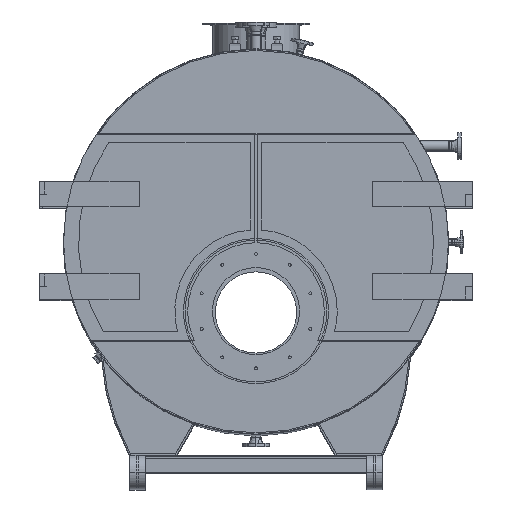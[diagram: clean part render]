
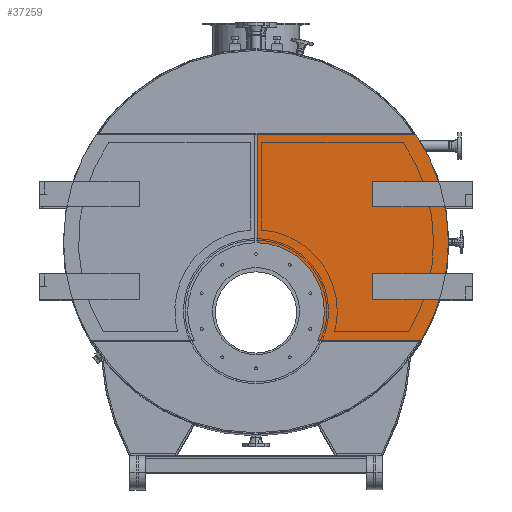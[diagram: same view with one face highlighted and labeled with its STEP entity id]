
A CAD part, top view. The second image highlights one B-rep face of the part: STEP entity #37259.
In plain terms, the highlighted planar face has unit normal (0, 0, 1).
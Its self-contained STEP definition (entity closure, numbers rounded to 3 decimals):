
#2889 = DIRECTION ( 'NONE',  ( 0., 0., 1. ) ) ;
#3099 = DIRECTION ( 'NONE',  ( 1., 0., 0. ) ) ;
#6376 = AXIS2_PLACEMENT_3D ( 'NONE', #25362, #25804, #28944 ) ;
#6791 = EDGE_CURVE ( 'NONE', #24816, #14366, #26604, .T. ) ;
#7976 = VERTEX_POINT ( 'NONE', #44292 ) ;
#8664 = DIRECTION ( 'NONE',  ( 0., 0., 1. ) ) ;
#9671 = CARTESIAN_POINT ( 'NONE',  ( 936.581, 1132.395, 0. ) ) ;
#9699 = ORIENTED_EDGE ( 'NONE', *, *, #40946, .T. ) ;
#10263 = EDGE_CURVE ( 'NONE', #16112, #24816, #38904, .T. ) ;
#10444 = VERTEX_POINT ( 'NONE', #41639 ) ;
#11073 = LINE ( 'NONE', #21009, #24716 ) ;
#11703 = ORIENTED_EDGE ( 'NONE', *, *, #39282, .T. ) ;
#12123 = DIRECTION ( 'NONE',  ( 0., 0., 1. ) ) ;
#13735 = CARTESIAN_POINT ( 'NONE',  ( 941.581, 1457.356, 0. ) ) ;
#14326 = CARTESIAN_POINT ( 'NONE',  ( 936.581, 1462.395, 0. ) ) ;
#14366 = VERTEX_POINT ( 'NONE', #37283 ) ;
#16112 = VERTEX_POINT ( 'NONE', #35540 ) ;
#17309 = EDGE_CURVE ( 'NONE', #28215, #19955, #38743, .T. ) ;
#17595 = ORIENTED_EDGE ( 'NONE', *, *, #6791, .T. ) ;
#17925 = DIRECTION ( 'NONE',  ( 1., 0., 0. ) ) ;
#19638 = ORIENTED_EDGE ( 'NONE', *, *, #10263, .T. ) ;
#19955 = VERTEX_POINT ( 'NONE', #13735 ) ;
#20250 = DIRECTION ( 'NONE',  ( 1., 0., 0. ) ) ;
#20359 = DIRECTION ( 'NONE',  ( 1., 0., 0. ) ) ;
#21009 = CARTESIAN_POINT ( 'NONE',  ( 1695.95, 1972.869, 0. ) ) ;
#22326 = AXIS2_PLACEMENT_3D ( 'NONE', #42672, #12123, #35738 ) ;
#23827 = AXIS2_PLACEMENT_3D ( 'NONE', #39451, #8664, #20359 ) ;
#24716 = VECTOR ( 'NONE', #34693, 1000. ) ;
#24816 = VERTEX_POINT ( 'NONE', #30885 ) ;
#25362 = CARTESIAN_POINT ( 'NONE',  ( 936.581, 1132.395, 0. ) ) ;
#25402 = VECTOR ( 'NONE', #3099, 1000. ) ;
#25611 = EDGE_CURVE ( 'NONE', #10444, #19955, #26946, .T. ) ;
#25758 = CIRCLE ( 'NONE', #6376, 325. ) ;
#25796 = CARTESIAN_POINT ( 'NONE',  ( 941.581, 1972.869, 0. ) ) ;
#25804 = DIRECTION ( 'NONE',  ( 0., 0., 1. ) ) ;
#26604 = CIRCLE ( 'NONE', #22326, 915. ) ;
#26946 = CIRCLE ( 'NONE', #32703, 325. ) ;
#28215 = VERTEX_POINT ( 'NONE', #25796 ) ;
#28912 = FACE_OUTER_BOUND ( 'NONE', #30218, .T. ) ;
#28944 = DIRECTION ( 'NONE',  ( 1., 0., 0. ) ) ;
#30218 = EDGE_LOOP ( 'NONE', ( #19638, #17595, #9699, #33136, #39651, #37540, #11703 ) ) ;
#30885 = CARTESIAN_POINT ( 'NONE',  ( 1851.581, 1462.395, 0. ) ) ;
#32404 = EDGE_CURVE ( 'NONE', #7976, #10444, #25758, .T. ) ;
#32703 = AXIS2_PLACEMENT_3D ( 'NONE', #9671, #2889, #20250 ) ;
#33136 = ORIENTED_EDGE ( 'NONE', *, *, #17309, .T. ) ;
#34604 = AXIS2_PLACEMENT_3D ( 'NONE', #14326, #39053, #17925 ) ;
#34693 = DIRECTION ( 'NONE',  ( -1., 0., 0. ) ) ;
#34921 = DIRECTION ( 'NONE',  ( 0., -1., 0. ) ) ;
#35540 = CARTESIAN_POINT ( 'NONE',  ( 1722.099, 993.155, 0. ) ) ;
#35738 = DIRECTION ( 'NONE',  ( 1., 0., 0. ) ) ;
#37259 = ADVANCED_FACE ( 'NONE', ( #28912 ), #42167, .T. ) ;
#37283 = CARTESIAN_POINT ( 'NONE',  ( 1695.95, 1972.869, 0. ) ) ;
#37540 = ORIENTED_EDGE ( 'NONE', *, *, #32404, .F. ) ;
#38743 = LINE ( 'NONE', #42313, #43977 ) ;
#38904 = CIRCLE ( 'NONE', #23827, 915. ) ;
#39053 = DIRECTION ( 'NONE',  ( 0., 0., 1. ) ) ;
#39282 = EDGE_CURVE ( 'NONE', #7976, #16112, #44014, .T. ) ;
#39451 = CARTESIAN_POINT ( 'NONE',  ( 936.581, 1462.395, 0. ) ) ;
#39651 = ORIENTED_EDGE ( 'NONE', *, *, #25611, .F. ) ;
#40218 = CARTESIAN_POINT ( 'NONE',  ( 1230.243, 993.155, 0. ) ) ;
#40946 = EDGE_CURVE ( 'NONE', #14366, #28215, #11073, .T. ) ;
#41639 = CARTESIAN_POINT ( 'NONE',  ( 1261.581, 1132.395, 0. ) ) ;
#42167 = PLANE ( 'NONE',  #34604 ) ;
#42313 = CARTESIAN_POINT ( 'NONE',  ( 941.581, 1972.869, 0. ) ) ;
#42672 = CARTESIAN_POINT ( 'NONE',  ( 936.581, 1462.395, 0. ) ) ;
#43977 = VECTOR ( 'NONE', #34921, 1000. ) ;
#44014 = LINE ( 'NONE', #40218, #25402 ) ;
#44292 = CARTESIAN_POINT ( 'NONE',  ( 1230.243, 993.155, 0. ) ) ;
